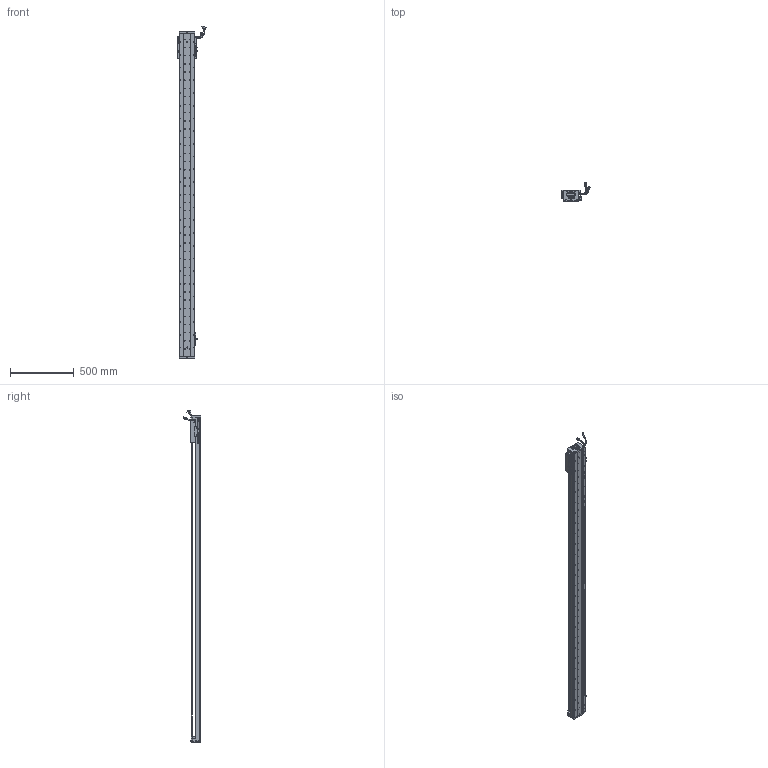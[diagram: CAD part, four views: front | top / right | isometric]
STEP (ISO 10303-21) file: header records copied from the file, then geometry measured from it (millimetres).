
FILE_DESCRIPTION (( 'STEP AP203' ), '1' );
FILE_NAME ('Z2-RY120D-1-L500-B-K.SLDASM_2300.step', '2021-05-17T05:38:32', ( '盈信电脑' ), ( '东莞市道滘镇水果街19号' ), 'SwSTEP 2.0', 'SolidWorks 2016', '' );
FILE_SCHEMA (( 'CONFIG_CONTROL_DESIGN' ));
Length unit declared in the file: millimetre
Products named in the file (37): SCALE; RY100FB-遵嫖萇覜茼え; 120-Z-臏賑輸盄裔(21遴); LABEL-Part-1; COVER-Part-1; SCALE-Part-1; HARNESS; SCREW-M1.6-2; Z-RY120D詩湍奻揤裔; HOLDER0; Z2-RY120D-1-L500-B-K.SLDASM_2300; HARNESS-Part-2; PBU_SHEET; COVER; SCREW-M1.7; SHIELDPLATE; 榋妏寠巭燃_暯_M2_2; 覜茼ん672; 140雄赽晤鎢ん堤盄; Z-120詩湍傷裔啣; SCREW-M1.7-1; 140蚥薯蝶輸; Z-RY120D詩湍狟揤裔; LABEL; SCALE-Part-2; Z2-RY120-L500詩湍100mm遵_2300; SCREW-M1.6-3; SCREW-M1.6-1; SCREW-M1.6; PSLH080_PSLF2; SEAL-Part-1; Z2-RY120铝滑块（21款）; HARNESS-Part-1; 080黍杅芛假蚾釱21遴; Z2-RY120-500-倰第菁釱_2300; 672嫖萇羲壽假蚾釱; SEAL
Assembly tree (43 placements, depth 4):
  Z2-RY120D-1-L500-B-K.SLDASM_2300
    Z2-RY120-500-倰第菁釱_2300
    覜茼ん672  x3
    672嫖萇羲壽假蚾釱  x2
    Z2-RY120铝滑块（21款）
    PSLH080_PSLF2
      SCALE
        SCALE-Part-1
        SCALE-Part-2
      HARNESS
        HARNESS-Part-1
        HARNESS-Part-2
      LABEL
        LABEL-Part-1
      COVER
        COVER-Part-1
      SEAL
        SEAL-Part-1
      榋妏寠巭燃_暯_M2_2
      SHIELDPLATE
      SCREW-M1.7
      SCREW-M1.7-1
      PBU_SHEET
      SCREW-M1.6
      SCREW-M1.6-1
      SCREW-M1.6-2
      SCREW-M1.6-3
      HOLDER0
    080黍杅芛假蚾釱21遴
    120-Z-臏賑輸盄裔(21遴)
    140雄赽晤鎢ん堤盄
    140蚥薯蝶輸  x2
    RY100FB-遵嫖萇覜茼え
    Z-120詩湍傷裔啣  x2
    Z-RY120D詩湍奻揤裔  x2
    Z-RY120D詩湍狟揤裔  x2
    Z2-RY120-L500詩湍100mm遵_2300
Bounding box: 222.83 x 140.94 x 2608.99 mm (x, y, z)
Volume: 5988581.5 mm3; surface area: 2118725.3 mm2
Topology: 38 solids, 38 shells, 3621 faces, 10294 edges, 6496 vertices
Faces by surface type: cylinder 1886, plane 1239, cone 374, torus 69, bspline 53
Entity records: 121027 total; most frequent: CARTESIAN_POINT 36916, ORIENTED_EDGE 17364, DIRECTION 15952, EDGE_CURVE 8682, AXIS2_PLACEMENT_3D 5894, VERTEX_POINT 5616, VECTOR 4164, LINE 4164
